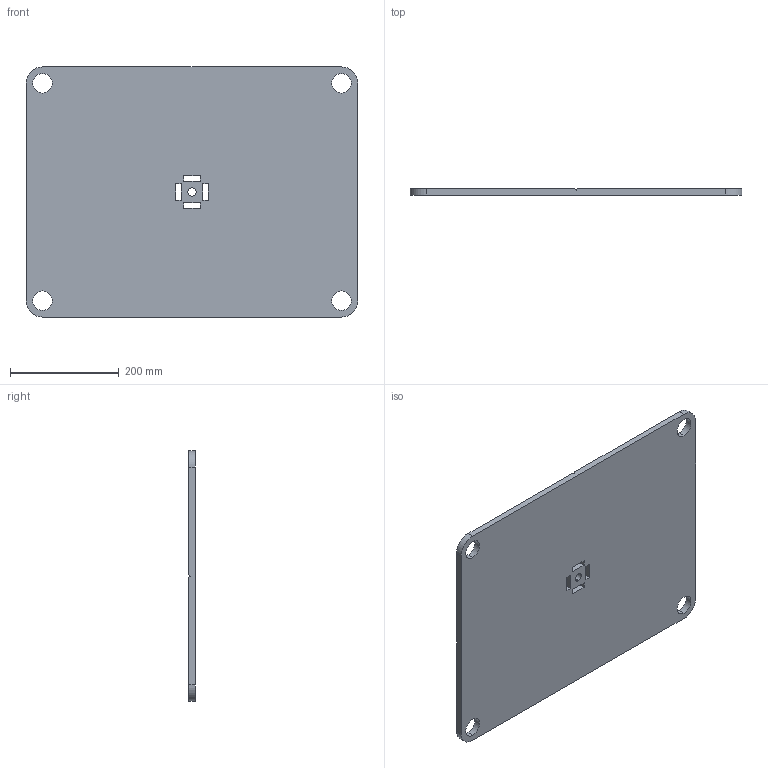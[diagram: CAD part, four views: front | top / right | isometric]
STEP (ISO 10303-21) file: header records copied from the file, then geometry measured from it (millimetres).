
FILE_DESCRIPTION (( 'STEP AP214' ), '1' );
FILE_NAME ('BOD2 Drill Guide V003.STEP', '2021-08-24T08:49:30', ( '' ), ( '' ), 'SwSTEP 2.0', 'SolidWorks 2021', '' );
FILE_SCHEMA (( 'AUTOMOTIVE_DESIGN' ));
Length unit declared in the file: millimetre
Products named in the file (1): BOD2 Drill Guide V003
Bounding box: 610 x 12 x 460 mm (x, y, z)
Volume: 3283546.9 mm3; surface area: 585997.4 mm2
Topology: 1 solids, 1 shells, 55 faces, 172 edges, 114 vertices
Faces by surface type: plane 41, cylinder 14
Entity records: 1970 total; most frequent: CARTESIAN_POINT 366, ORIENTED_EDGE 344, DIRECTION 306, EDGE_CURVE 172, VECTOR 134, LINE 134, VERTEX_POINT 114, AXIS2_PLACEMENT_3D 86
